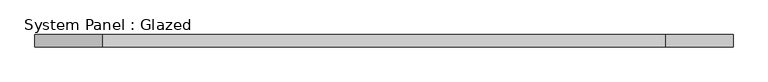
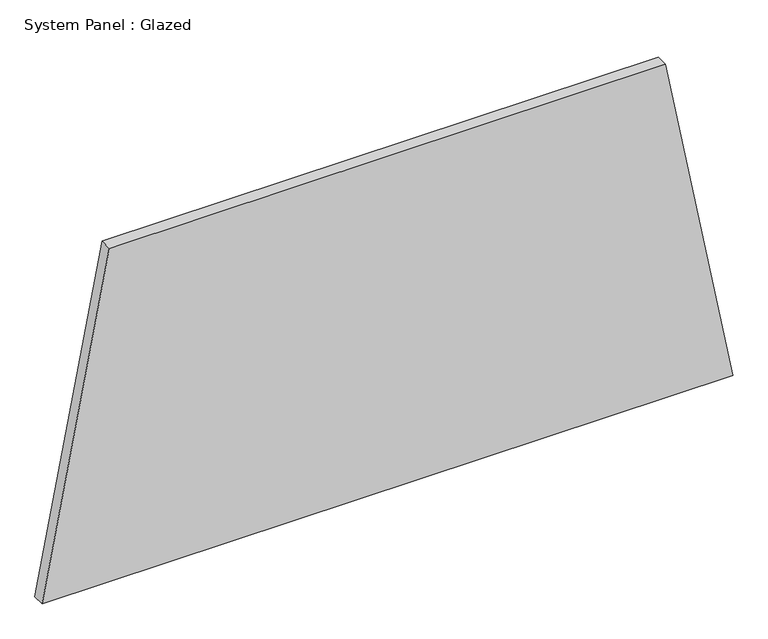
"""IFC4 building model written with IfcOpenShell, lengths in millimetres: plate geometry, System Panel : Glazed."""

from ifc_helpers import new_model, si_unit, frame, origin, place, context, project, spatial, polyline, outline, extrude, source, transform, mapped, element, save


def system_panel_glazed_44273b71(model_context):
    return source(origin(), model_context, "Body", "SweptSolid", [
        extrude(outline(polyline([(0.0, -708.491233), (0.0, 708.491233), (723.1291385, 570.6848325), (723.1291385, -570.6848325), (0.0, -708.491233)])), frame((0.0, 19.05, 0.0), z_axis=(0.0, 1.0, 0.0), x_axis=(0.0, 0.0, 1.0)), (0.0, 0.0, 1.0), 25.4),
    ])


if __name__ == "__main__":
    model = new_model("IFC4")
    model_context = context("Model", 3, world=origin())
    ifc_project = project(units=[si_unit("LENGTHUNIT", "METRE", prefix="MILLI")], contexts=[model_context])
    site = spatial("IfcSite", under=ifc_project)
    building = spatial("IfcBuilding", under=site)
    placement = place(None, origin())
    system_panel_glazed_shape = system_panel_glazed_44273b71(model_context)
    element("IfcPlate", 1, ObjectType="System Panel : Glazed", at=placement, inside=building, context=model_context, shape_type="MappedRepresentation", body=[
        mapped(system_panel_glazed_shape, transform((0.0, 0.0, 0.0), x_axis=(1.0, 0.0, 0.0), y_axis=(0.0, 1.0, 0.0), z_axis=(0.0, 0.0, 1.0))),
    ])
    save(model, "model.ifc")
